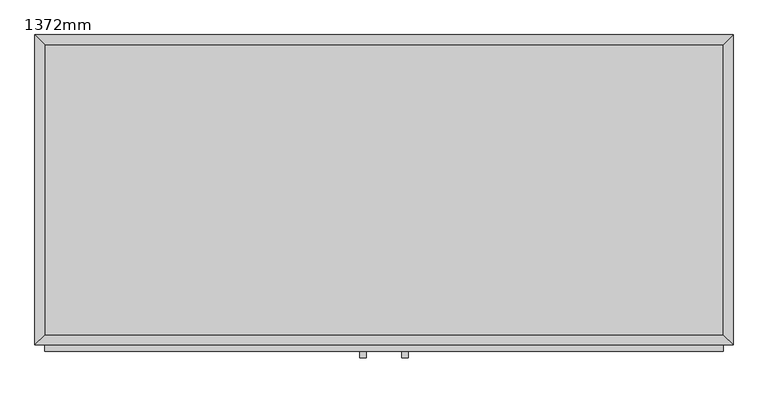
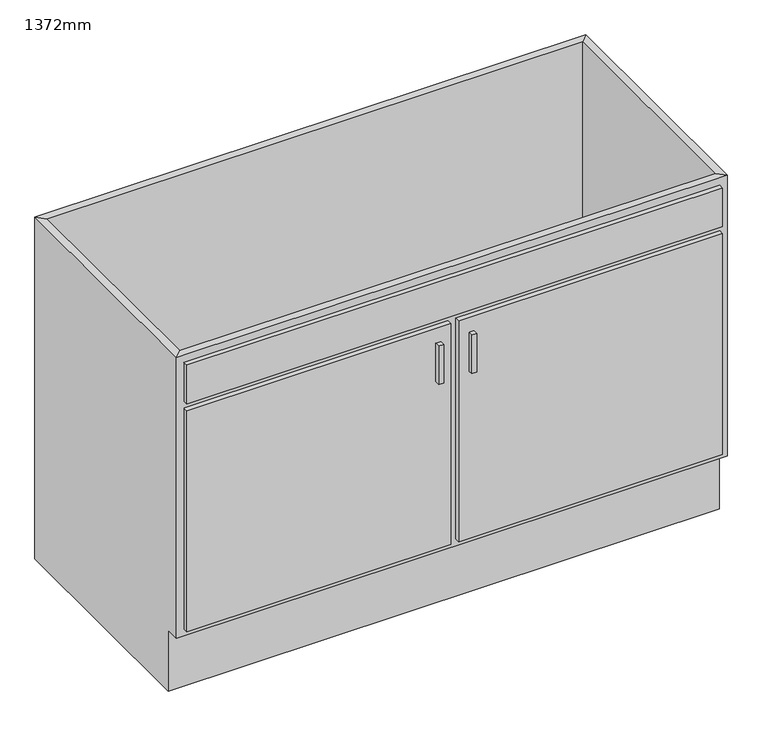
"""IFC4 building model written with IfcOpenShell, lengths in millimetres: proxy geometry, システムキッチン - スケール(小) - 3D : 1372mm."""

from ifc_helpers import new_model, si_unit, frame, origin, place, context, project, spatial, polyline, outline, extrude, faceted_brep, source, transform, mapped, element, save


def proxy_1372mm_902c12d3(model_context):
    return source(origin(), model_context, "Body", "SolidModel", [
        extrude(outline(polyline([(685.6877049, -19.05), (685.6877049, -590.95), (-648.2122951, -590.95), (-648.2122951, -19.05), (685.6877049, -19.05)])), frame((0.0, 0.0, 160.0), z_axis=(0.0, 0.0, 1.0), x_axis=(1.0, 0.0, 0.0)), (0.0, 0.0, 1.0), 19.05),
        extrude(outline(polyline([(9.2127049, -622.7), (-648.2122951, -622.7), (-648.2122951, -610.0), (9.2127049, -610.0), (9.2127049, -622.7)])), frame((0.0, 0.0, 179.05), z_axis=(0.0, 0.0, 1.0), x_axis=(1.0, 0.0, 0.0)), (0.0, 0.0, 1.0), 581.25),
        extrude(outline(polyline([(685.6877049, -622.7), (28.2627049, -622.7), (28.2627049, -610.0), (685.6877049, -610.0), (685.6877049, -622.7)])), frame((0.0, 0.0, 179.05), z_axis=(0.0, 0.0, 1.0), x_axis=(1.0, 0.0, 0.0)), (0.0, 0.0, 1.0), 581.25),
        extrude(outline(polyline([(685.6877049, -622.7), (-648.2122951, -622.7), (-648.2122951, -610.0), (685.6877049, -610.0), (685.6877049, -622.7)])), frame((0.0, 0.0, 779.35), z_axis=(0.0, 0.0, 1.0), x_axis=(1.0, 0.0, 0.0)), (0.0, 0.0, 1.0), 101.6),
        extrude(outline(polyline([(-16.1872951, -635.4), (-28.8872951, -635.4), (-28.8872951, -622.7), (-16.1872951, -622.7), (-16.1872951, -635.4)])), frame((0.0, 0.0, 620.6), z_axis=(0.0, 0.0, 1.0), x_axis=(1.0, 0.0, 0.0)), (0.0, 0.0, 1.0), 101.6),
        extrude(outline(polyline([(66.3627049, -635.4), (53.6627049, -635.4), (53.6627049, -622.7), (66.3627049, -622.7), (66.3627049, -635.4)])), frame((0.0, 0.0, 620.6), z_axis=(0.0, 0.0, 1.0), x_axis=(1.0, 0.0, 0.0)), (0.0, 0.0, 1.0), 101.6),
        faceted_brep([(685.6877049, -590.95, 900.0), (685.6877049, -590.95, 160.0), (-648.2122951, -590.95, 160.0), (-648.2122951, -590.95, 900.0), (-667.2622951, -610.0, 900.0), (704.7377049, -610.0, 900.0), (-667.2622951, -610.0, 160.0), (704.7377049, -610.0, 160.0), (-648.2122951, -575.0, 160.0), (-648.2122951, -19.05, 160.0), (-648.2122951, -19.05, 900.0), (-667.2622951, 0.0, 900.0), (-667.2622951, 0.0, 0.0), (-667.2622951, -575.0, 0.0), (-667.2622951, -575.0, 160.0), (685.6877049, -19.05, 160.0), (685.6877049, -19.05, 900.0), (704.7377049, 0.0, 900.0), (704.7377049, 0.0, 0.0), (685.6877049, -575.0, 160.0), (704.7377049, -575.0, 160.0), (704.7377049, -575.0, 0.0)], [[[0, 1, 2, 3]], [[0, 3, 4, 5]], [[5, 4, 6, 7]], [[2, 1, 7, 6]], [[3, 2, 8, 9, 10]], [[4, 3, 10, 11]], [[6, 4, 11, 12, 13, 14]], [[2, 6, 14, 8]], [[10, 9, 15, 16]], [[11, 10, 16, 17]], [[12, 11, 17, 18]], [[1, 0, 16, 15, 19]], [[0, 5, 17, 16]], [[5, 7, 20, 21, 18, 17]], [[7, 1, 19, 20]], [[8, 19, 15, 9]], [[18, 21, 13, 12]], [[13, 21, 20, 19, 8, 14]]]),
    ])


if __name__ == "__main__":
    model = new_model("IFC4")
    model_context = context("Model", 3, world=origin())
    ifc_project = project(units=[si_unit("LENGTHUNIT", "METRE", prefix="MILLI")], contexts=[model_context])
    site = spatial("IfcSite", under=ifc_project)
    building = spatial("IfcBuilding", under=site)
    placement = place(None, origin())
    proxy_1372mm_shape = proxy_1372mm_902c12d3(model_context)
    element("IfcBuildingElementProxy", 1, Name="システムキッチン - スケール(小) - 3D : 1372mm", ObjectType="システムキッチン - スケール(小) - 3D : 1372mm", at=placement, inside=building, context=model_context, shape_type="MappedRepresentation", body=[
        mapped(proxy_1372mm_shape, transform((0.0, 0.0, 0.0), x_axis=(1.0, 0.0, 0.0), y_axis=(0.0, 1.0, 0.0), z_axis=(0.0, 0.0, 1.0))),
    ])
    save(model, "model.ifc")
